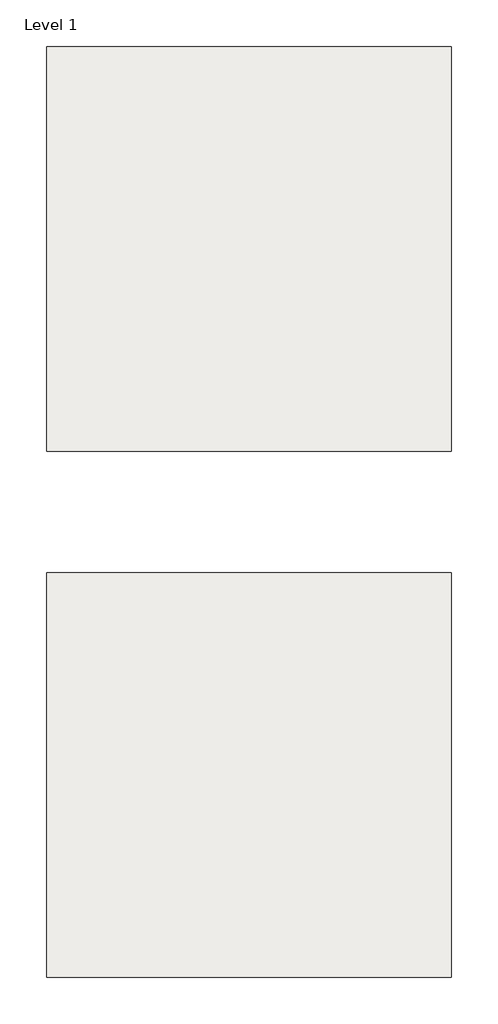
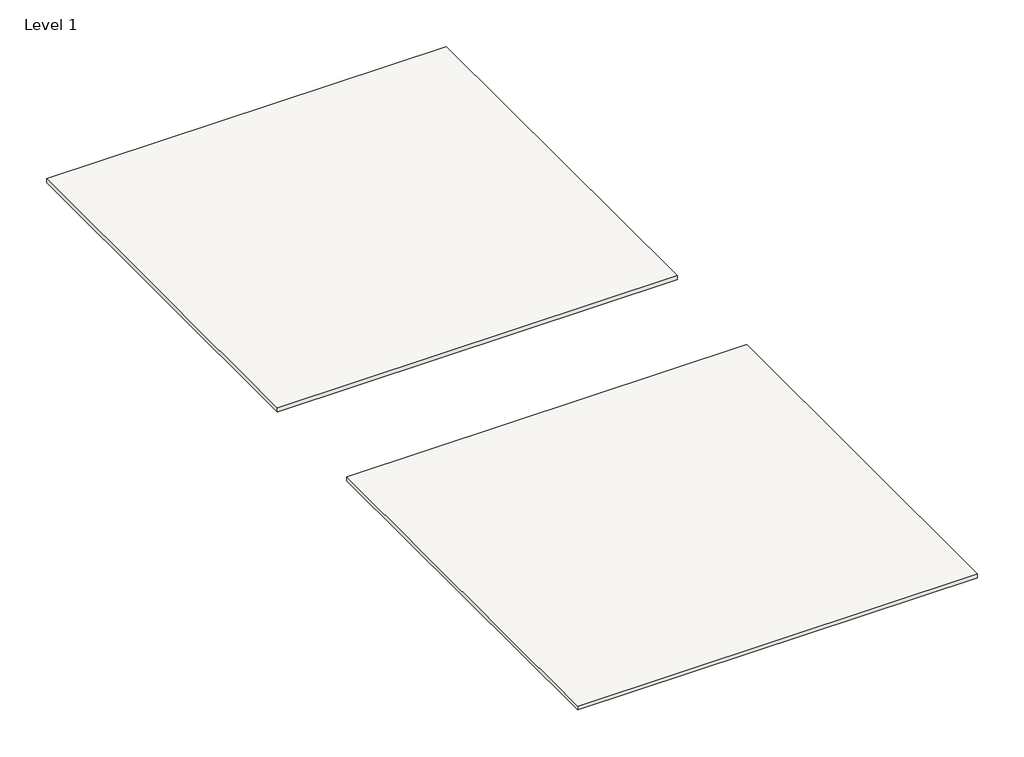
# One storey: 2 slabs.
"""IFC4 building model written with IfcOpenShell, lengths in millimetres."""

from ifc_helpers import new_model, si_unit, frame, origin, place, context, project, spatial, polyline, outline, extrude, element, save

model = new_model("IFC4")

# Units and contexts
model_context = context("Model", 3, world=origin())
ifc_project = project(units=[si_unit("LENGTHUNIT", "METRE", prefix="MILLI")], contexts=[model_context])

# Site, building, storey
site = spatial("IfcSite", under=ifc_project)
building = spatial("IfcBuilding", under=site)
storey = spatial("IfcBuildingStorey", under=building, Name="Level 1", Elevation=0.0)

# Slabs
placement = place(None, origin())
element("IfcSlab", 1, ObjectType="Exterior Decking - Wood - Thermory - QuickDeck Maxi - Smooth", at=placement, inside=storey, context=model_context, shape_type="SweptSolid", body=[
    extrude(outline(polyline([(-7902.6916977, -17093.8314635), (-10950.6916977, -17093.8314635), (-10950.6916977, -14045.8314635), (-7902.6916977, -14045.8314635), (-7902.6916977, -17093.8314635)])), frame((0.0, 0.0, -32.0), z_axis=(0.0, 0.0, 1.0), x_axis=(1.0, 0.0, 0.0)), (0.0, 0.0, 1.0), 32.0),
])
element("IfcSlab", 2, ObjectType="Exterior Decking - Wood - Thermory - QuickDeck Mosaic - Smooth", at=placement, inside=storey, context=model_context, shape_type="SweptSolid", body=[
    extrude(outline(polyline([(-7902.6916977, -13131.4314635), (-10950.6916977, -13131.4314635), (-10950.6916977, -10083.4314635), (-7902.6916977, -10083.4314635), (-7902.6916977, -13131.4314635)])), frame((0.0, 0.0, -31.0), z_axis=(0.0, 0.0, 1.0), x_axis=(1.0, 0.0, 0.0)), (0.0, 0.0, 1.0), 31.0),
])

save(model, "model.ifc")
